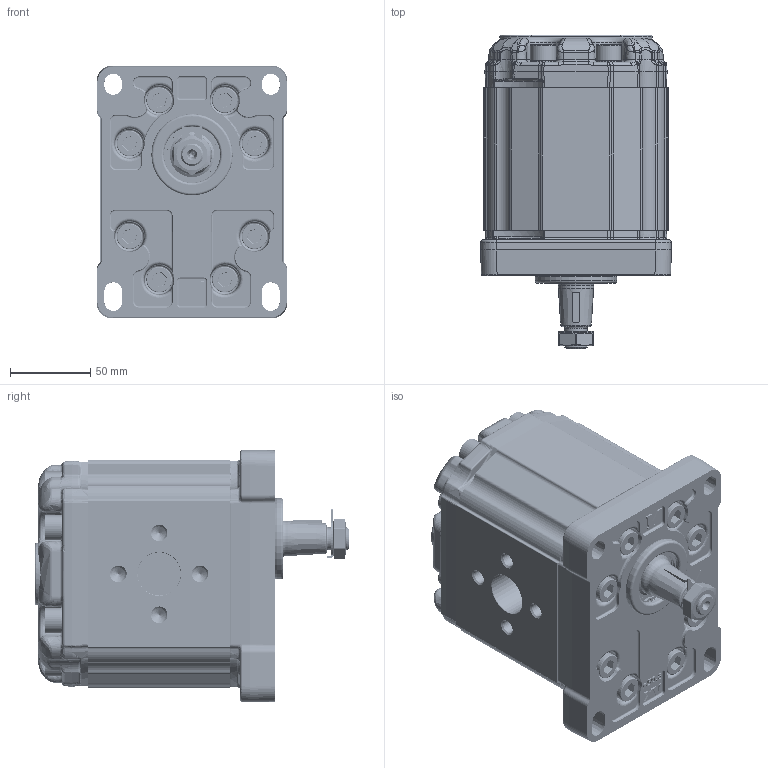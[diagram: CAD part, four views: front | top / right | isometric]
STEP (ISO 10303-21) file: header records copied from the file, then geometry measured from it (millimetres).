
FILE_DESCRIPTION(/* description */ ('Unknown'),/* implementation_level */ '2;1');
FILE_NAME(/* name */ 'X3P7902ABAA',/* time_stamp */ '2023-09-08T14:36:23+02:00',/* author */ ('Unknown'),/* organization */ ('Unknown'),/* preprocessor_version */ 'ST-DEVELOPER v16.7',/* originating_system */ 'Solid Edge',/* authorisation */ 'Unknown');
FILE_SCHEMA (('AUTOMOTIVE_DESIGN {1 0 10303 214 3 1 1}'));
Products named in the file (5): X3P7902ABAA; X3P02; 3A; X3BAH89; XP301-A
Assembly tree (4 placements, depth 2):
  X3P7902ABAA
    X3P02
    3A
    X3BAH89
    XP301-A
Bounding box: 119.2 x 196 x 157.8 mm (x, y, z)
Volume: 2137057.7 mm3; surface area: 225749.4 mm2
Topology: 4 solids, 5 shells, 4597 faces, 14078 edges, 8799 vertices
Faces by surface type: cylinder 1842, plane 1394, bspline 997, torus 200, cone 151, sphere 13
Full cylindrical faces by diameter (mm): 2 x2, 6.8 x4, 8.376 x4, 10 x16, 10.35 x30, 10.5 x1, 14 x2, 15.8 x16, 16 x16, 20 x1, 22 x1, 24.98 x1, 25 x2, 25.968 x1, 27 x1, 28.16 x1, 31 x1, 31.293 x1, 32.742 x1, 34.956 x1, 35 x1, 35.2 x1, 37 x1, 50.8 x1
Entity records: 310920 total; most frequent: CARTESIAN_POINT 163809, ORIENTED_EDGE 27172, DIRECTION 20433, EDGE_CURVE 13586, VERTEX_POINT 8656, AXIS2_PLACEMENT_3D 7787, FACE_BOUND 5074, EDGE_LOOP 5064
